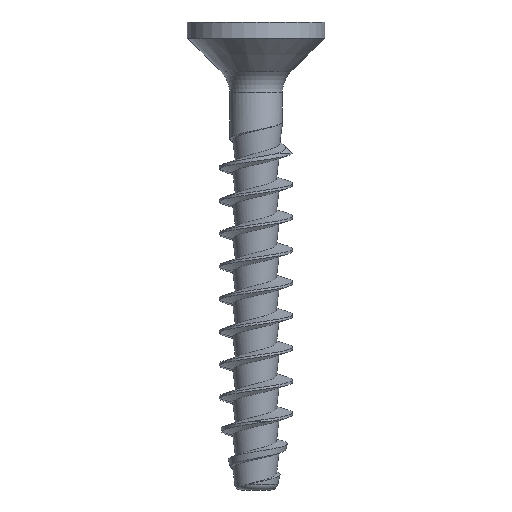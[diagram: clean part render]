
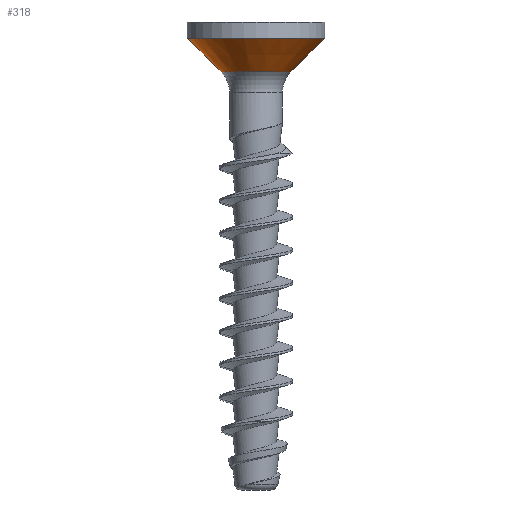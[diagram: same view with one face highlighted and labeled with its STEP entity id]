
A CAD part, front view. The second image highlights one B-rep face of the part: STEP entity #318.
In plain terms, the highlighted conical face has half-angle 45 degrees and reference radius 0.9 mm.
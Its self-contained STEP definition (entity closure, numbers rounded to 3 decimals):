
#303=FACE_BOUND('',#494,.T.);
#304=FACE_BOUND('',#495,.T.);
#318=ADVANCED_FACE('',(#303,#304),#399,.T.);
#399=CONICAL_SURFACE('',#1502,0.9,45.);
#494=EDGE_LOOP('',(#679));
#495=EDGE_LOOP('',(#680));
#587=CIRCLE('',#1500,1.193);
#588=CIRCLE('',#1501,2.35);
#679=ORIENTED_EDGE('',*,*,#1239,.T.);
#680=ORIENTED_EDGE('',*,*,#1240,.F.);
#1098=VERTEX_POINT('',#3220);
#1099=VERTEX_POINT('',#3222);
#1239=EDGE_CURVE('',#1098,#1098,#587,.T.);
#1240=EDGE_CURVE('',#1099,#1099,#588,.T.);
#1500=AXIS2_PLACEMENT_3D('',#3219,#1632,#1633);
#1501=AXIS2_PLACEMENT_3D('',#3221,#1634,#1635);
#1502=AXIS2_PLACEMENT_3D('',#3223,#1636,#1637);
#1632=DIRECTION('',(0.,0.,1.));
#1633=DIRECTION('',(1.,0.,0.));
#1634=DIRECTION('',(0.,0.,1.));
#1635=DIRECTION('',(1.,0.,0.));
#1636=DIRECTION('',(0.,0.,1.));
#1637=DIRECTION('',(1.,0.,0.));
#3219=CARTESIAN_POINT('',(0.,0.,0.293));
#3220=CARTESIAN_POINT('',(1.193,0.,0.293));
#3221=CARTESIAN_POINT('',(0.,0.,1.45));
#3222=CARTESIAN_POINT('',(2.35,0.,1.45));
#3223=CARTESIAN_POINT('',(0.,0.,0.));
